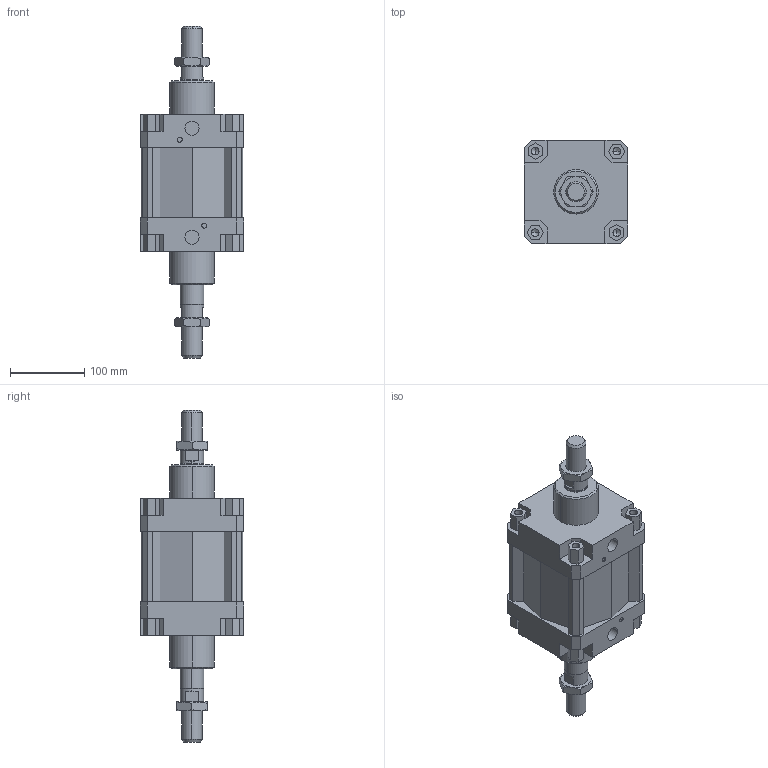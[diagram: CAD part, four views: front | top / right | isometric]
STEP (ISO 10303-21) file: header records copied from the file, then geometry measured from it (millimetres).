
FILE_DESCRIPTION((''),'2;1');
FILE_NAME('I:\DOC-EDP\Lib-3d\1319\CILINDRI\Ø125\1319_125_0025_02.stp','2003-04-08T12:18:39',('maffial1'),(''),'Autodesk Inventor (R) 6.0','Autodesk Inventor (R) 6.0','');
FILE_SCHEMA(('AUTOMOTIVE_DESIGN { 1 0 10303 214 1 1 1 1 }'));
Length unit declared in the file: millimetre
Products named in the file (4): 1319_125_0025_02; CIM04_125_25; CIM03_125_25; 1320_125_18F
Assembly tree (4 placements, depth 2):
  1319_125_0025_02
    CIM04_125_25
    CIM03_125_25
    1320_125_18F  x2
Bounding box: 140 x 140 x 448 mm (x, y, z)
Volume: 3516536.2 mm3; surface area: 264017.3 mm2
Topology: 4 solids, 4 shells, 290 faces, 724 edges, 452 vertices
Faces by surface type: plane 130, bspline 72, cone 60, cylinder 28
Entity records: 8094 total; most frequent: CARTESIAN_POINT 1972, ORIENTED_EDGE 1288, DIRECTION 1160, EDGE_CURVE 644, VECTOR 480, LINE 480, VERTEX_POINT 416, AXIS2_PLACEMENT_3D 340
